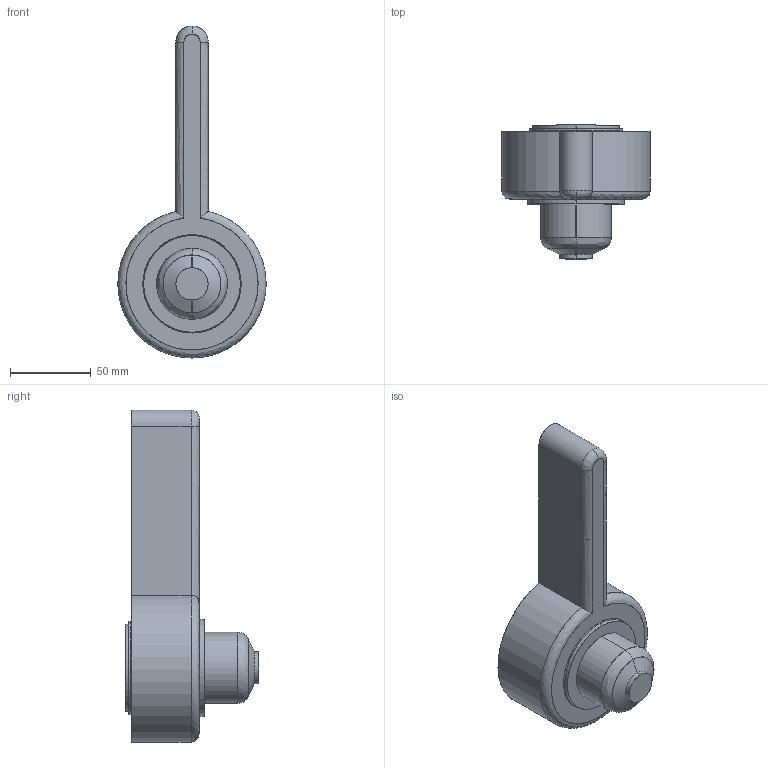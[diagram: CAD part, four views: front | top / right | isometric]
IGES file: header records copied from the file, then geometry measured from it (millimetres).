
Start section: SolidWorks IGES file using analytic representation for surfaces
Global section: file name: C:\Documents and Settings\ws-20\Desktop\TEM\Sede UGER6601-S-A C-34 L-81.IGS; native system: SolidWorks 2012; preprocessor: SolidWorks 2012; author: ws-20; date: 120417.105411; units: millimetre
Bounding box: 91.98 x 83.09 x 206 mm (x, y, z)
Surface area: 42972.2 mm2 (no closed solid volume)
Topology: 0 solids, 0 shells, 34 faces, 788 edges, 788 vertices
Faces by surface type: revolution 21, bspline 13
